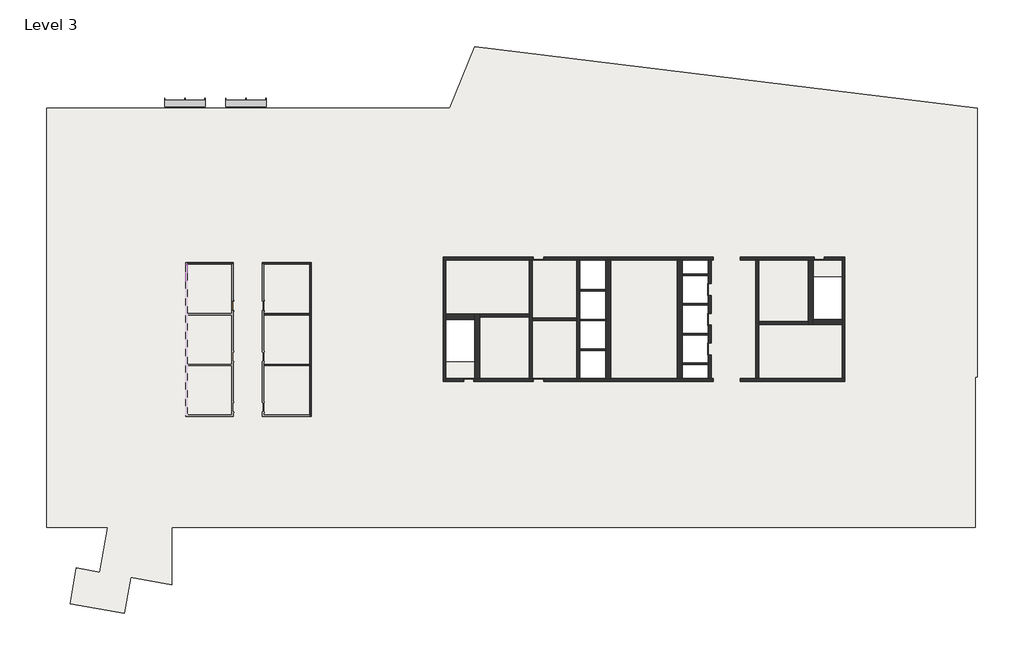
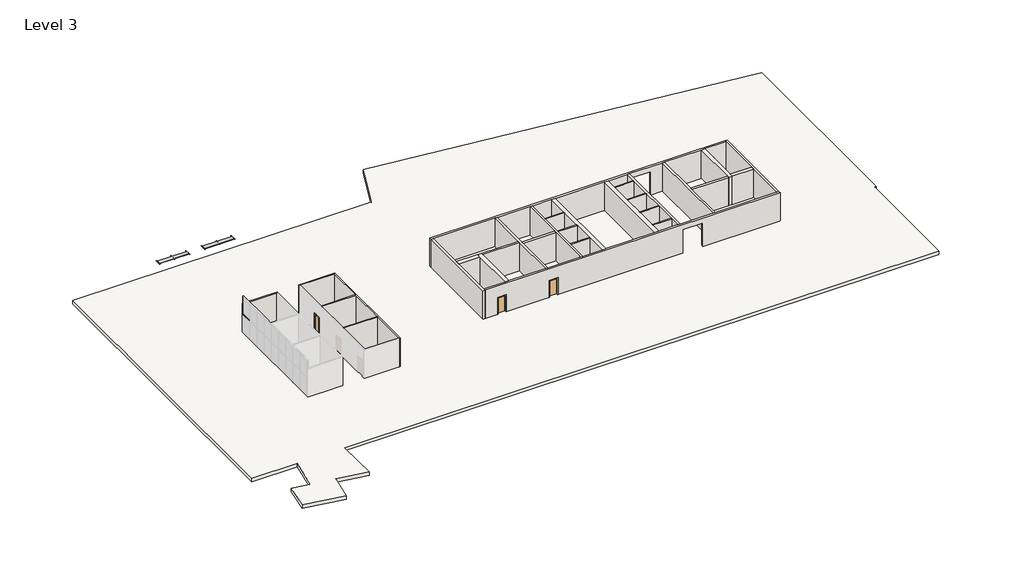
# One storey, part 2 of 2: 29 walls, 6 beams, 6 doors, 5 proxies, 2 members, 1 slab.
"""IFC4 building model written with IfcOpenShell, lengths in millimetres."""

from ifc_helpers import new_model, si_unit, frame, origin, place, context, project, spatial, polyline, outline, extrude, faceted_brep, transform, mapped, element, save
from components import support_member_fadda9f7, support_member_90e03ff0, proxy_7fed659c, shading_device_shading_device_a76b5041, door_82111de5, door_92889684, door_ec010f1f, door_9d8f1ff2, member_8e4b14e5, member_73a57e35

model = new_model("IFC4")

# Units and contexts
model_context = context("Model", 3, world=origin())
ifc_project = project(units=[si_unit("LENGTHUNIT", "METRE", prefix="MILLI")], contexts=[model_context])

# Site, building, storey
site = spatial("IfcSite", under=ifc_project)
building = spatial("IfcBuilding", under=site)
storey = spatial("IfcBuildingStorey", under=building, Name="Level 3", Elevation=7315.2)

# Beams
placement = place(None, origin())
support_member_shape = support_member_fadda9f7(model_context)
element("IfcBeam", 1, ObjectType="Support Memeber : Support Member", at=placement, inside=storey, context=model_context, shape_type="MappedRepresentation", body=[
    mapped(support_member_shape, transform((-54417.1873649, 10081.2896508, 8229.6), x_axis=(1.0, 0.0, 0.0), y_axis=(0.0, 1.0, 0.0), z_axis=(0.0, 0.0, 1.0))),
])
element("IfcBeam", 2, ObjectType="Support Memeber : Support Member", at=placement, inside=storey, context=model_context, shape_type="MappedRepresentation", body=[
    mapped(support_member_shape, transform((-48930.7873649, 10081.2896508, 8229.6), x_axis=(1.0, 0.0, 0.0), y_axis=(0.0, 1.0, 0.0), z_axis=(0.0, 0.0, 1.0))),
])
element("IfcBeam", 3, ObjectType="Support Memeber : Support Member", at=placement, inside=storey, context=model_context, shape_type="MappedRepresentation", body=[
    mapped(support_member_shape, transform((-56226.451546, 10081.2896508, 8229.6), x_axis=(1.0, 0.0, 0.0), y_axis=(0.0, 1.0, 0.0), z_axis=(0.0, 0.0, 1.0))),
])
element("IfcBeam", 4, ObjectType="Support Memeber : Support Member", at=placement, inside=storey, context=model_context, shape_type="MappedRepresentation", body=[
    mapped(support_member_shape, transform((-50740.051546, 10081.2896508, 8229.6), x_axis=(1.0, 0.0, 0.0), y_axis=(0.0, 1.0, 0.0), z_axis=(0.0, 0.0, 1.0))),
])
support_member_2_shape = support_member_90e03ff0(model_context)
element("IfcBeam", 5, ObjectType="Support Memeber : Support Member", at=placement, inside=storey, context=model_context, shape_type="MappedRepresentation", body=[
    mapped(support_member_2_shape, transform((-58011.2873649, 10081.2896508, 8229.6), x_axis=(-1.0, 0.0, 0.0), y_axis=(0.0, -1.0, 0.0), z_axis=(0.0, 0.0, 1.0))),
])
element("IfcBeam", 6, ObjectType="Support Memeber : Support Member", at=placement, inside=storey, context=model_context, shape_type="MappedRepresentation", body=[
    mapped(support_member_2_shape, transform((-52524.8873649, 10081.2896508, 8229.6), x_axis=(-1.0, 0.0, 0.0), y_axis=(0.0, -1.0, 0.0), z_axis=(0.0, 0.0, 1.0))),
])

# Proxies
proxy_shape = proxy_7fed659c(model_context)
element("IfcBuildingElementProxy", 7, Name="Elevator%20Door-Center[1] : 42\" x 84\"", ObjectType="Elevator%20Door-Center[1] : 42\" x 84\"", at=placement, inside=storey, context=model_context, shape_type="MappedRepresentation", body=[
    mapped(proxy_shape, transform((-9030.2427926, -6266.0747049, 7315.2), x_axis=(0.0, 1.0, 0.0), y_axis=(-1.0, 0.0, 0.0), z_axis=(0.0, 0.0, 1.0))),
])
element("IfcBuildingElementProxy", 8, Name="Elevator%20Door-Center[1] : 42\" x 84\"", ObjectType="Elevator%20Door-Center[1] : 42\" x 84\"", at=placement, inside=storey, context=model_context, shape_type="MappedRepresentation", body=[
    mapped(proxy_shape, transform((-9030.2427926, -8933.0747049, 7315.2), x_axis=(0.0, 1.0, 0.0), y_axis=(-1.0, 0.0, 0.0), z_axis=(0.0, 0.0, 1.0))),
])
element("IfcBuildingElementProxy", 9, Name="Elevator%20Door-Center[1] : 42\" x 84\"", ObjectType="Elevator%20Door-Center[1] : 42\" x 84\"", at=placement, inside=storey, context=model_context, shape_type="MappedRepresentation", body=[
    mapped(proxy_shape, transform((-9030.2427926, -11600.0747049, 7315.2), x_axis=(0.0, 1.0, 0.0), y_axis=(-1.0, 0.0, 0.0), z_axis=(0.0, 0.0, 1.0))),
])
shading_device_shading_device_shape = shading_device_shading_device_a76b5041(model_context)
element("IfcBuildingElementProxy", 10, Name="Shading Device : Shading Device", ObjectType="Shading Device : Shading Device", at=placement, inside=storey, context=model_context, shape_type="MappedRepresentation", body=[
    mapped(shading_device_shading_device_shape, transform((-54406.4191819, 10081.2896508, 8229.6), x_axis=(-1.0, 0.0, 0.0), y_axis=(0.0, -1.0, 0.0), z_axis=(0.0, 0.0, 1.0))),
])
element("IfcBuildingElementProxy", 11, Name="Shading Device : Shading Device", ObjectType="Shading Device : Shading Device", at=placement, inside=storey, context=model_context, shape_type="MappedRepresentation", body=[
    mapped(shading_device_shading_device_shape, transform((-48920.0191819, 10081.2896508, 8229.6), x_axis=(-1.0, 0.0, 0.0), y_axis=(0.0, -1.0, 0.0), z_axis=(0.0, 0.0, 1.0))),
])

# Doors
door_shape = door_82111de5(model_context)
element("IfcDoor", 12, ObjectType="Single-Flush : 34\" x 80\"", at=placement, inside=storey, context=model_context, shape_type="MappedRepresentation", body=[
    mapped(door_shape, transform((-51923.5856498, -7813.0103492, 7315.2), x_axis=(0.0, -1.0, 0.0), y_axis=(1.0, 0.0, 0.0), z_axis=(0.0, 0.0, 1.0))),
])
door_2_shape = door_92889684(model_context)
element("IfcDoor", 13, ObjectType="Single-Flush : 34\" x 80\"", at=placement, inside=storey, context=model_context, shape_type="MappedRepresentation", body=[
    mapped(door_2_shape, transform((-49194.8999355, -7813.0103492, 7315.2), x_axis=(0.0, -1.0, 0.0), y_axis=(1.0, 0.0, 0.0), z_axis=(0.0, 0.0, 1.0))),
])
door_3_shape = door_ec010f1f(model_context)
element("IfcDoor", 14, ObjectType="Single-Flush : 36\" x 84\"", at=placement, inside=storey, context=model_context, shape_type="MappedRepresentation", body=[
    mapped(door_3_shape, transform((-30700.0713641, -14493.2103492, 7315.2), x_axis=(1.0, 0.0, 0.0), y_axis=(0.0, 1.0, 0.0), z_axis=(0.0, 0.0, 1.0))),
])
element("IfcDoor", 15, ObjectType="Single-Flush : 36\" x 84\"", at=placement, inside=storey, context=model_context, shape_type="MappedRepresentation", body=[
    mapped(door_3_shape, transform((817.7000645, -3571.2103492, 7315.2), x_axis=(-1.0, 0.0, 0.0), y_axis=(0.0, -1.0, 0.0), z_axis=(0.0, 0.0, 1.0))),
])
element("IfcDoor", 16, ObjectType="Single-Flush : 36\" x 84\"", at=placement, inside=storey, context=model_context, shape_type="MappedRepresentation", body=[
    mapped(door_3_shape, transform((-24433.5285069, -3571.2103492, 7315.2), x_axis=(-1.0, 0.0, 0.0), y_axis=(0.0, -1.0, 0.0), z_axis=(0.0, 0.0, 1.0))),
])
door_4_shape = door_9d8f1ff2(model_context)
element("IfcDoor", 17, ObjectType="Single-Flush : 36\" x 84\"", at=placement, inside=storey, context=model_context, shape_type="MappedRepresentation", body=[
    mapped(door_4_shape, transform((-24433.5285069, -14493.2103492, 7315.2), x_axis=(-1.0, 0.0, 0.0), y_axis=(0.0, -1.0, 0.0), z_axis=(0.0, 0.0, 1.0))),
])

# Members
member_shape = member_8e4b14e5(model_context)
element("IfcMember", 18, ObjectType="Rectangular Mullion : 2.5\" x 5\" rectangular", at=placement, inside=storey, context=model_context, shape_type="MappedRepresentation", body=[
    mapped(member_shape, transform((-56063.7856498, -4130.0103492, 9728.2), x_axis=(0.0, 0.0, 1.0), y_axis=(1.0, 0.0, 0.0), z_axis=(0.0, 1.0, 0.0))),
])
member_2_shape = member_73a57e35(model_context)
element("IfcMember", 19, ObjectType="Rectangular Mullion : 2.5\" x 5\" rectangular", at=placement, inside=storey, context=model_context, shape_type="MappedRepresentation", body=[
    mapped(member_2_shape, transform((-56063.7856498, -4066.5103492, 9728.2), x_axis=(0.0, 1.0, 0.0), y_axis=(1.0, 0.0, 0.0), z_axis=(0.0, 0.0, -1.0))),
])

# Slab
element("IfcSlab", 20, ObjectType="Steel Bar Joist 14\" - Concrete", at=placement, inside=storey, context=model_context, shape_type="SweptSolid", body=[
    extrude(outline(polyline([(-68660.7599961, -27742.4853492), (-68660.7599961, 9954.2896508), (-32421.4843139, 9954.2896508), (-30175.817983, 15512.5088637), (15043.3054088, 9960.2986536), (15043.3054088, -14218.4266737), (14830.5804088, -14218.4266737), (14830.5804088, -27735.220667), (-57415.8125003, -27735.220667), (-57415.8125003, -32919.911766), (-61087.9334678, -32272.417763), (-61658.0117526, -35505.4923758), (-66551.3983764, -34642.656287), (-65981.3200915, -31409.5816742), (-63880.1342697, -31780.0774261), (-63168.1978494, -27742.4853492), (-68660.7599961, -27742.4853492)]), holes=[polyline([(-32750.2142212, -9032.2103492), (-32750.2142212, -12842.2103492), (-30166.6713641, -12842.2103492), (-30166.6713641, -9032.2103492), (-32750.2142212, -9032.2103492)]), polyline([(-20725.1285069, -3698.2103492), (-20725.1285069, -14366.2103492), (-18385.1284437, -14366.2103492), (-18385.1284437, -3698.2103492), (-20725.1285069, -3698.2103492)]), polyline([(-9157.2427926, -3698.2103492), (-11497.2428559, -3698.2103492), (-11497.2428559, -14366.2103492), (-9157.2427926, -14366.2103492), (-9157.2427926, -3698.2103492)]), polyline([(2867.8429217, -9032.2103492), (2867.8429217, -5222.2103492), (284.3000645, -5222.2103492), (284.3000645, -9032.2103492), (2867.8429217, -9032.2103492)])]), frame((0.0, 0.0, 6880.225), z_axis=(0.0, 0.0, 1.0), x_axis=(1.0, 0.0, 0.0)), (0.0, 0.0, 1.0), 434.975),
])

# Walls
element("IfcWall", 21, ObjectType="Core-shaft 10\" Concrete", at=placement, inside=storey, context=model_context, shape_type="Brep", body=[
    faceted_brep([(-24890.7285069, -14366.2103492, 9448.8), (-24890.7285069, -14366.2103492, 7315.2), (-24992.3285069, -14366.2103492, 7315.2), (-25246.3285069, -14366.2103492, 7315.2), (-29709.4713641, -14366.2103492, 7315.2), (-30166.6713641, -14366.2103492, 7315.2), (-30242.8713641, -14366.2103492, 7315.2), (-30242.8713641, -14366.2103492, 9448.8), (-31157.2713641, -14366.2103492, 9448.8), (-31157.2713641, -14366.2103492, 7315.2), (-32750.2142212, -14366.2103492, 7315.2), (-32750.2142212, -14366.2103492, 10972.8), (-30166.6713641, -14366.2103492, 10972.8), (-29709.4713641, -14366.2103492, 10972.8), (-25246.3285069, -14366.2103492, 10972.8), (-24992.3285069, -14366.2103492, 10972.8), (-20979.1285069, -14366.2103492, 10972.8), (-20725.1285069, -14366.2103492, 10972.8), (-18385.1284437, -14366.2103492, 10972.8), (-17927.9284437, -14366.2103492, 10972.8), (-11954.4428559, -14366.2103492, 10972.8), (-11497.2428559, -14366.2103492, 10972.8), (-9157.2427926, -14366.2103492, 10972.8), (-8903.2427926, -14366.2103492, 10972.8), (-4890.0427926, -14366.2103492, 10972.8), (-4636.0427926, -14366.2103492, 10972.8), (2867.8429217, -14366.2103492, 10972.8), (3121.8429217, -14366.2103492, 10972.8), (3121.8429217, -14366.2103492, 7315.2), (2867.8429217, -14366.2103492, 7315.2), (-4636.0427926, -14366.2103492, 7315.2), (-4890.0427926, -14366.2103492, 7315.2), (-6276.1570783, -14366.2103492, 7315.2), (-6276.1570783, -14366.2103492, 10363.2), (-8714.5570783, -14366.2103492, 10363.2), (-8714.5570783, -14366.2103492, 7315.2), (-8903.2427926, -14366.2103492, 7315.2), (-9157.2427926, -14366.2103492, 7315.2), (-11497.2428559, -14366.2103492, 7315.2), (-11954.4428559, -14366.2103492, 7315.2), (-17927.9284437, -14366.2103492, 7315.2), (-18385.1284437, -14366.2103492, 7315.2), (-20725.1285069, -14366.2103492, 7315.2), (-20979.1285069, -14366.2103492, 7315.2), (-23976.3285069, -14366.2103492, 7315.2), (-23976.3285069, -14366.2103492, 9448.8), (-30242.8713641, -14620.2103492, 7315.2), (-24890.7285069, -14620.2103492, 7315.2), (-24890.7285069, -14620.2103492, 9448.8), (-23976.3285069, -14620.2103492, 9448.8), (-23976.3285069, -14620.2103492, 7315.2), (-8714.5570783, -14620.2103492, 7315.2), (-8714.5570783, -14620.2103492, 10363.2), (-6276.1570783, -14620.2103492, 10363.2), (-6276.1570783, -14620.2103492, 7315.2), (3121.8429217, -14620.2103492, 7315.2), (3121.8429217, -14620.2103492, 10972.8), (-32750.2142212, -14620.2103492, 10972.8), (-32750.2142212, -14620.2103492, 7315.2), (-31157.2713641, -14620.2103492, 7315.2), (-31157.2713641, -14620.2103492, 9448.8), (-30242.8713641, -14620.2103492, 9448.8)], [[[0, 1, 2, 3, 4, 5, 6, 7, 8, 9, 10, 11, 12, 13, 14, 15, 16, 17, 18, 19, 20, 21, 22, 23, 24, 25, 26, 27, 28, 29, 30, 31, 32, 33, 34, 35, 36, 37, 38, 39, 40, 41, 42, 43, 44, 45]], [[46, 47, 48, 49, 50, 51, 52, 53, 54, 55, 56, 57, 58, 59, 60, 61]], [[59, 58, 10, 9]], [[44, 43, 42, 41, 40, 39, 38, 37, 36, 35, 51, 50]], [[6, 5, 4, 3, 2, 1, 47, 46]], [[28, 55, 54, 32, 31, 30, 29]], [[27, 26, 25, 24, 23, 22, 21, 20, 19, 18, 17, 16, 15, 14, 13, 12, 11, 57, 56]], [[7, 6, 46, 61]], [[8, 7, 61, 60]], [[9, 8, 60, 59]], [[33, 53, 52, 34]], [[53, 33, 32, 54]], [[34, 52, 51, 35]], [[48, 47, 1, 0]], [[49, 48, 0, 45]], [[50, 49, 45, 44]], [[28, 27, 56, 55]], [[11, 10, 58, 57]]]),
])
element("IfcWall", 22, ObjectType="Core-shaft 10\" Concrete", at=placement, inside=storey, context=model_context, shape_type="Brep", body=[
    faceted_brep([(2867.8429217, -3444.2103492, 7315.2), (2867.8429217, -3698.2103492, 7315.2), (2867.8429217, -9032.2103492, 7315.2), (2867.8429217, -9489.4103492, 7315.2), (2867.8429217, -14366.2103492, 7315.2), (2867.8429217, -14366.2103492, 10972.8), (2867.8429217, -9489.4103492, 10972.8), (2867.8429217, -9032.2103492, 10972.8), (2867.8429217, -3698.2103492, 10972.8), (2867.8429217, -3444.2103492, 10972.8), (3121.8429217, -3444.2103492, 7315.2), (3121.8429217, -3444.2103492, 10972.8), (3121.8429217, -14366.2103492, 10972.8), (3121.8429217, -14366.2103492, 7315.2)], [[[0, 1, 2, 3, 4, 5, 6, 7, 8, 9]], [[10, 11, 12, 13]], [[4, 3, 2, 1, 0, 10, 13]], [[9, 8, 7, 6, 5, 12, 11]], [[0, 9, 11, 10]], [[5, 4, 13, 12]]]),
])
element("IfcWall", 23, ObjectType="Core-shaft 10\" Concrete", at=placement, inside=storey, context=model_context, shape_type="Brep", body=[
    faceted_brep([(-33004.2142212, -3698.2103492, 7315.2), (-32750.2142212, -3698.2103492, 7315.2), (-25246.3285069, -3698.2103492, 7315.2), (-24992.3285069, -3698.2103492, 7315.2), (-24890.7285069, -3698.2103492, 7315.2), (-24890.7285069, -3698.2103492, 9448.8), (-23976.3285069, -3698.2103492, 9448.8), (-23976.3285069, -3698.2103492, 7315.2), (-20979.1285069, -3698.2103492, 7315.2), (-20725.1285069, -3698.2103492, 7315.2), (-18385.1284437, -3698.2103492, 7315.2), (-17927.9284437, -3698.2103492, 7315.2), (-11954.4428559, -3698.2103492, 7315.2), (-11497.2428559, -3698.2103492, 7315.2), (-9157.2427926, -3698.2103492, 7315.2), (-8903.2427926, -3698.2103492, 7315.2), (-8714.5570783, -3698.2103492, 7315.2), (-8714.5570783, -3698.2103492, 10363.2), (-6276.1570783, -3698.2103492, 10363.2), (-6276.1570783, -3698.2103492, 7315.2), (-4890.0427926, -3698.2103492, 7315.2), (-4636.0427926, -3698.2103492, 7315.2), (-172.8999355, -3698.2103492, 7315.2), (284.3000645, -3698.2103492, 7315.2), (360.5000645, -3698.2103492, 7315.2), (360.5000645, -3698.2103492, 9448.8), (1274.9000645, -3698.2103492, 9448.8), (1274.9000645, -3698.2103492, 7315.2), (2867.8429217, -3698.2103492, 7315.2), (2867.8429217, -3698.2103492, 10972.8), (284.3000645, -3698.2103492, 10972.8), (-172.8999355, -3698.2103492, 10972.8), (-4636.0427926, -3698.2103492, 10972.8), (-4890.0427926, -3698.2103492, 10972.8), (-8903.2427926, -3698.2103492, 10972.8), (-9157.2427926, -3698.2103492, 10972.8), (-11497.2428559, -3698.2103492, 10972.8), (-11954.4428559, -3698.2103492, 10972.8), (-17927.9284437, -3698.2103492, 10972.8), (-18385.1284437, -3698.2103492, 10972.8), (-20725.1285069, -3698.2103492, 10972.8), (-20979.1285069, -3698.2103492, 10972.8), (-24992.3285069, -3698.2103492, 10972.8), (-25246.3285069, -3698.2103492, 10972.8), (-32750.2142212, -3698.2103492, 10972.8), (-33004.2142212, -3698.2103492, 10972.8), (-24890.7285069, -3444.2103492, 9448.8), (-24890.7285069, -3444.2103492, 7315.2), (-33004.2142212, -3444.2103492, 7315.2), (-33004.2142212, -3444.2103492, 10972.8), (2867.8429217, -3444.2103492, 10972.8), (2867.8429217, -3444.2103492, 7315.2), (1274.9000645, -3444.2103492, 7315.2), (1274.9000645, -3444.2103492, 9448.8), (360.5000645, -3444.2103492, 9448.8), (360.5000645, -3444.2103492, 7315.2), (-6276.1570783, -3444.2103492, 7315.2), (-6276.1570783, -3444.2103492, 10363.2), (-8714.5570783, -3444.2103492, 10363.2), (-8714.5570783, -3444.2103492, 7315.2), (-23976.3285069, -3444.2103492, 7315.2), (-23976.3285069, -3444.2103492, 9448.8)], [[[0, 1, 2, 3, 4, 5, 6, 7, 8, 9, 10, 11, 12, 13, 14, 15, 16, 17, 18, 19, 20, 21, 22, 23, 24, 25, 26, 27, 28, 29, 30, 31, 32, 33, 34, 35, 36, 37, 38, 39, 40, 41, 42, 43, 44, 45]], [[46, 47, 48, 49, 50, 51, 52, 53, 54, 55, 56, 57, 58, 59, 60, 61]], [[52, 51, 28, 27]], [[56, 55, 24, 23, 22, 21, 20, 19]], [[60, 59, 16, 15, 14, 13, 12, 11, 10, 9, 8, 7]], [[48, 47, 4, 3, 2, 1, 0]], [[45, 44, 43, 42, 41, 40, 39, 38, 37, 36, 35, 34, 33, 32, 31, 30, 29, 50, 49]], [[17, 58, 57, 18]], [[58, 17, 16, 59]], [[18, 57, 56, 19]], [[25, 24, 55, 54]], [[26, 25, 54, 53]], [[27, 26, 53, 52]], [[5, 4, 47, 46]], [[6, 5, 46, 61]], [[7, 6, 61, 60]], [[0, 45, 49, 48]], [[29, 28, 51, 50]]]),
])
element("IfcWall", 24, ObjectType="Core-shaft 10\" Concrete", at=placement, inside=storey, context=model_context, shape_type="Brep", body=[
    faceted_brep([(-32750.2142212, -14620.2103492, 7315.2), (-32750.2142212, -14366.2103492, 7315.2), (-32750.2142212, -9032.2103492, 7315.2), (-32750.2142212, -8575.0103492, 7315.2), (-32750.2142212, -3698.2103492, 7315.2), (-32750.2142212, -3698.2103492, 10972.8), (-32750.2142212, -8575.0103492, 10972.8), (-32750.2142212, -9032.2103492, 10972.8), (-32750.2142212, -14366.2103492, 10972.8), (-32750.2142212, -14620.2103492, 10972.8), (-33004.2142212, -14620.2103492, 7315.2), (-33004.2142212, -14620.2103492, 10972.8), (-33004.2142212, -3698.2103492, 10972.8), (-33004.2142212, -3698.2103492, 7315.2)], [[[0, 1, 2, 3, 4, 5, 6, 7, 8, 9]], [[10, 11, 12, 13]], [[4, 3, 2, 1, 0, 10, 13]], [[9, 8, 7, 6, 5, 12, 11]], [[0, 9, 11, 10]], [[5, 4, 13, 12]]]),
])
element("IfcWall", 25, ObjectType="Core-shaft 10\" Concrete", at=placement, inside=storey, context=model_context, shape_type="SweptSolid", body=[
    extrude(outline(polyline([(-20725.1285069, -3698.2103492), (-20725.1285069, -14366.2103492), (-20979.1285069, -14366.2103492), (-20979.1285069, -3698.2103492), (-20725.1285069, -3698.2103492)])), frame((0.0, 0.0, 7315.2), z_axis=(0.0, 0.0, 1.0), x_axis=(1.0, 0.0, 0.0)), (0.0, 0.0, 1.0), 3657.6),
])
element("IfcWall", 26, ObjectType="Core-shaft 10\" Concrete", at=placement, inside=storey, context=model_context, shape_type="Brep", body=[
    faceted_brep([(-24992.3285069, -14366.2103492, 7315.2), (-24992.3285069, -3698.2103492, 7315.2), (-24992.3285069, -3698.2103492, 10972.8), (-24992.3285069, -14366.2103492, 10972.8), (-25246.3285069, -14366.2103492, 7315.2), (-25246.3285069, -14366.2103492, 10972.8), (-25246.3285069, -8829.0103492, 10972.8), (-25246.3285069, -8575.0103492, 10972.8), (-25246.3285069, -3698.2103492, 10972.8), (-25246.3285069, -3698.2103492, 7315.2), (-25246.3285069, -8575.0103492, 7315.2), (-25246.3285069, -8829.0103492, 7315.2)], [[[0, 1, 2, 3]], [[4, 5, 6, 7, 8, 9, 10, 11]], [[1, 0, 4, 11, 10, 9]], [[3, 2, 8, 7, 6, 5]], [[2, 1, 9, 8]], [[0, 3, 5, 4]]]),
])
element("IfcWall", 27, ObjectType="Core-shaft 10\" Concrete", at=placement, inside=storey, context=model_context, shape_type="SweptSolid", body=[
    extrude(outline(polyline([(-25246.3285069, -8829.0103492), (-29709.4713641, -8829.0103492), (-29709.4713641, -8575.0103492), (-25246.3285069, -8575.0103492), (-25246.3285069, -8829.0103492)])), frame((0.0, 0.0, 7315.2), z_axis=(0.0, 0.0, 1.0), x_axis=(1.0, 0.0, 0.0)), (0.0, 0.0, 1.0), 3657.6),
])
element("IfcWall", 28, ObjectType="Core-shaft 10\" Concrete", at=placement, inside=storey, context=model_context, shape_type="SweptSolid", body=[
    extrude(outline(polyline([(-14366.2103492, 10972.8), (-3698.2103492, 10972.8), (-3698.2103492, 7315.2), (-5825.4603492, 7315.2), (-5825.4603492, 9474.2), (-6904.9603492, 9474.2), (-6904.9603492, 7315.2), (-8492.4603492, 7315.2), (-8492.4603492, 9474.2), (-9571.9603492, 9474.2), (-9571.9603492, 7315.2), (-11159.4603492, 7315.2), (-11159.4603492, 9474.2), (-12238.9603492, 9474.2), (-12238.9603492, 7315.2), (-14366.2103492, 7315.2), (-14366.2103492, 10972.8)])), frame((-9157.2427926, 0.0, 0.0), z_axis=(1.0, 0.0, 0.0), x_axis=(0.0, 1.0, 0.0)), (0.0, 0.0, 1.0), 254.0),
])
element("IfcWall", 29, ObjectType="Core-shaft 10\" Concrete", at=placement, inside=storey, context=model_context, shape_type="Brep", body=[
    faceted_brep([(-4636.0427926, -14366.2103492, 7315.2), (-4636.0427926, -9489.4103492, 7315.2), (-4636.0427926, -9235.4103492, 7315.2), (-4636.0427926, -3698.2103492, 7315.2), (-4636.0427926, -3698.2103492, 10972.8), (-4636.0427926, -9235.4103492, 10972.8), (-4636.0427926, -9489.4103492, 10972.8), (-4636.0427926, -14366.2103492, 10972.8), (-4890.0427926, -14366.2103492, 7315.2), (-4890.0427926, -14366.2103492, 10972.8), (-4890.0427926, -3698.2103492, 10972.8), (-4890.0427926, -3698.2103492, 7315.2)], [[[0, 1, 2, 3, 4, 5, 6, 7]], [[8, 9, 10, 11]], [[3, 2, 1, 0, 8, 11]], [[7, 6, 5, 4, 10, 9]], [[4, 3, 11, 10]], [[0, 7, 9, 8]]]),
])
element("IfcWall", 30, ObjectType="Core-shaft 10\" Concrete", at=placement, inside=storey, context=model_context, shape_type="SweptSolid", body=[
    extrude(outline(polyline([(-4636.0427926, -9235.4103492), (-172.8999355, -9235.4103492), (-172.8999355, -9489.4103492), (-4636.0427926, -9489.4103492), (-4636.0427926, -9235.4103492)])), frame((0.0, 0.0, 7315.2), z_axis=(0.0, 0.0, 1.0), x_axis=(1.0, 0.0, 0.0)), (0.0, 0.0, 1.0), 3657.6),
])
element("IfcWall", 31, ObjectType="Core-shaft 10\" Concrete", at=placement, inside=storey, context=model_context, shape_type="SweptSolid", body=[
    extrude(outline(polyline([(-20979.1285069, -9159.2103492), (-24992.3285069, -9159.2103492), (-24992.3285069, -8905.2103492), (-20979.1285069, -8905.2103492), (-20979.1285069, -9159.2103492)])), frame((0.0, 0.0, 7315.2), z_axis=(0.0, 0.0, 1.0), x_axis=(1.0, 0.0, 0.0)), (0.0, 0.0, 1.0), 3657.6),
])
element("IfcWall", 32, ObjectType="Core-shaft 18\" Concrete", at=placement, inside=storey, context=model_context, shape_type="SweptSolid", body=[
    extrude(outline(polyline([(-18385.1284437, -14366.2103492), (-18385.1284437, -3698.2103492), (-17927.9284437, -3698.2103492), (-17927.9284437, -14366.2103492), (-18385.1284437, -14366.2103492)])), frame((0.0, 0.0, 7315.2), z_axis=(0.0, 0.0, 1.0), x_axis=(1.0, 0.0, 0.0)), (0.0, 0.0, 1.0), 3657.6),
])
element("IfcWall", 33, ObjectType="Core-shaft 18\" Concrete", at=placement, inside=storey, context=model_context, shape_type="Brep", body=[
    faceted_brep([(-29709.4713641, -14366.2103492, 7315.2), (-29709.4713641, -8829.0103492, 7315.2), (-29709.4713641, -8575.0103492, 7315.2), (-29709.4713641, -8575.0103492, 10972.8), (-29709.4713641, -8829.0103492, 10972.8), (-29709.4713641, -14366.2103492, 10972.8), (-30166.6713641, -14366.2103492, 7315.2), (-30166.6713641, -14366.2103492, 10972.8), (-30166.6713641, -9032.2103492, 10972.8), (-30166.6713641, -8575.0103492, 10972.8), (-30166.6713641, -8575.0103492, 7315.2), (-30166.6713641, -9032.2103492, 7315.2)], [[[0, 1, 2, 3, 4, 5]], [[6, 7, 8, 9, 10, 11]], [[2, 1, 0, 6, 11, 10]], [[5, 4, 3, 9, 8, 7]], [[3, 2, 10, 9]], [[0, 5, 7, 6]]]),
])
element("IfcWall", 34, ObjectType="Core-shaft 18\" Concrete", at=placement, inside=storey, context=model_context, shape_type="SweptSolid", body=[
    extrude(outline(polyline([(-32750.2142212, -8575.0103492), (-30166.6713641, -8575.0103492), (-30166.6713641, -9032.2103492), (-32750.2142212, -9032.2103492), (-32750.2142212, -8575.0103492)])), frame((0.0, 0.0, 7315.2), z_axis=(0.0, 0.0, 1.0), x_axis=(1.0, 0.0, 0.0)), (0.0, 0.0, 1.0), 3657.6),
])
element("IfcWall", 35, ObjectType="Core-shaft 18\" Concrete", at=placement, inside=storey, context=model_context, shape_type="SweptSolid", body=[
    extrude(outline(polyline([(-11954.4428559, -14366.2103492), (-11954.4428559, -3698.2103492), (-11497.2428559, -3698.2103492), (-11497.2428559, -14366.2103492), (-11954.4428559, -14366.2103492)])), frame((0.0, 0.0, 7315.2), z_axis=(0.0, 0.0, 1.0), x_axis=(1.0, 0.0, 0.0)), (0.0, 0.0, 1.0), 3657.6),
])
element("IfcWall", 36, ObjectType="Core-shaft 18\" Concrete", at=placement, inside=storey, context=model_context, shape_type="Brep", body=[
    faceted_brep([(-172.8999355, -3698.2103492, 7315.2), (-172.8999355, -9235.4103492, 7315.2), (-172.8999355, -9489.4103492, 7315.2), (-172.8999355, -9489.4103492, 10972.8), (-172.8999355, -9235.4103492, 10972.8), (-172.8999355, -3698.2103492, 10972.8), (284.3000645, -3698.2103492, 7315.2), (284.3000645, -3698.2103492, 10972.8), (284.3000645, -9032.2103492, 10972.8), (284.3000645, -9489.4103492, 10972.8), (284.3000645, -9489.4103492, 7315.2), (284.3000645, -9032.2103492, 7315.2)], [[[0, 1, 2, 3, 4, 5]], [[6, 7, 8, 9, 10, 11]], [[2, 1, 0, 6, 11, 10]], [[5, 4, 3, 9, 8, 7]], [[3, 2, 10, 9]], [[0, 5, 7, 6]]]),
])
element("IfcWall", 37, ObjectType="Core-shaft 18\" Concrete", at=placement, inside=storey, context=model_context, shape_type="SweptSolid", body=[
    extrude(outline(polyline([(2867.8429217, -9489.4103492), (284.3000645, -9489.4103492), (284.3000645, -9032.2103492), (2867.8429217, -9032.2103492), (2867.8429217, -9489.4103492)])), frame((0.0, 0.0, 7315.2), z_axis=(0.0, 0.0, 1.0), x_axis=(1.0, 0.0, 0.0)), (0.0, 0.0, 1.0), 3657.6),
])
element("IfcWall", 38, ObjectType="Generic - 5\"", at=placement, inside=storey, context=model_context, shape_type="SweptSolid", body=[
    extrude(outline(polyline([(-18385.1284437, -11826.2103492), (-20725.1285069, -11826.2103492), (-20725.1285069, -11699.2103492), (-18385.1284437, -11699.2103492), (-18385.1284437, -11826.2103492)])), frame((0.0, 0.0, 7315.2), z_axis=(0.0, 0.0, 1.0), x_axis=(1.0, 0.0, 0.0)), (0.0, 0.0, 1.0), 3657.6),
])
element("IfcWall", 39, ObjectType="Generic - 5\"", at=placement, inside=storey, context=model_context, shape_type="SweptSolid", body=[
    extrude(outline(polyline([(-18385.1284437, -9159.2103492), (-20725.1285069, -9159.2103492), (-20725.1285069, -9032.2103492), (-18385.1284437, -9032.2103492), (-18385.1284437, -9159.2103492)])), frame((0.0, 0.0, 7315.2), z_axis=(0.0, 0.0, 1.0), x_axis=(1.0, 0.0, 0.0)), (0.0, 0.0, 1.0), 3657.6),
])
element("IfcWall", 40, ObjectType="Generic - 5\"", at=placement, inside=storey, context=model_context, shape_type="SweptSolid", body=[
    extrude(outline(polyline([(-18385.1284437, -6492.2103492), (-20725.1285069, -6492.2103492), (-20725.1285069, -6365.2103492), (-18385.1284437, -6365.2103492), (-18385.1284437, -6492.2103492)])), frame((0.0, 0.0, 7315.2), z_axis=(0.0, 0.0, 1.0), x_axis=(1.0, 0.0, 0.0)), (0.0, 0.0, 1.0), 3657.6),
])
element("IfcWall", 41, ObjectType="Generic - 5\"", at=placement, inside=storey, context=model_context, shape_type="SweptSolid", body=[
    extrude(outline(polyline([(-11497.2428559, -10302.2103492), (-9157.2427926, -10302.2103492), (-9157.2427926, -10429.2103492), (-11497.2428559, -10429.2103492), (-11497.2428559, -10302.2103492)])), frame((0.0, 0.0, 7315.2), z_axis=(0.0, 0.0, 1.0), x_axis=(1.0, 0.0, 0.0)), (0.0, 0.0, 1.0), 3657.6),
])
element("IfcWall", 42, ObjectType="Generic - 5\"", at=placement, inside=storey, context=model_context, shape_type="SweptSolid", body=[
    extrude(outline(polyline([(-11497.2428559, -7635.2103492), (-9157.2427926, -7635.2103492), (-9157.2427926, -7762.2103492), (-11497.2428559, -7762.2103492), (-11497.2428559, -7635.2103492)])), frame((0.0, 0.0, 7315.2), z_axis=(0.0, 0.0, 1.0), x_axis=(1.0, 0.0, 0.0)), (0.0, 0.0, 1.0), 3657.6),
])
element("IfcWall", 43, ObjectType="Generic - 5\"", at=placement, inside=storey, context=model_context, shape_type="SweptSolid", body=[
    extrude(outline(polyline([(-11497.2428559, -4968.2103492), (-9157.2427926, -4968.2103492), (-9157.2427926, -5095.2103492), (-11497.2428559, -5095.2103492), (-11497.2428559, -4968.2103492)])), frame((0.0, 0.0, 7315.2), z_axis=(0.0, 0.0, 1.0), x_axis=(1.0, 0.0, 0.0)), (0.0, 0.0, 1.0), 3657.6),
])
element("IfcWall", 44, ObjectType="Generic - 5\"", at=placement, inside=storey, context=model_context, shape_type="SweptSolid", body=[
    extrude(outline(polyline([(-11497.2428559, -12969.2103492), (-9157.2427926, -12969.2103492), (-9157.2427926, -13096.2103492), (-11497.2428559, -13096.2103492), (-11497.2428559, -12969.2103492)])), frame((0.0, 0.0, 7315.2), z_axis=(0.0, 0.0, 1.0), x_axis=(1.0, 0.0, 0.0)), (0.0, 0.0, 1.0), 3657.6),
])
element("IfcWall", 45, ObjectType="Interior - Generic - 5\"", at=placement, inside=storey, context=model_context, shape_type="Brep", body=[
    faceted_brep([(-44864.1999355, -3939.5103492, 7315.2), (-49258.3999355, -3939.5103492, 7315.2), (-49258.3999355, -3939.5103492, 10972.8), (-44864.1999355, -3939.5103492, 10972.8), (-44864.1999355, -4066.5103492, 7315.2), (-44864.1999355, -4066.5103492, 10972.8), (-44991.1999355, -4066.5103492, 10972.8), (-49131.3999355, -4066.5103492, 10972.8), (-49258.3999355, -4066.5103492, 10972.8), (-49258.3999355, -4066.5103492, 7315.2), (-49131.3999355, -4066.5103492, 7315.2), (-44991.1999355, -4066.5103492, 7315.2)], [[[0, 1, 2, 3]], [[4, 5, 6, 7, 8, 9, 10, 11]], [[1, 0, 4, 11, 10, 9]], [[3, 2, 8, 7, 6, 5]], [[0, 3, 5, 4]], [[2, 1, 9, 8]]]),
])
element("IfcWall", 46, ObjectType="Interior - Generic - 5\"", at=placement, inside=storey, context=model_context, shape_type="Brep", body=[
    faceted_brep([(-44864.1999355, -17782.5103492, 7315.2), (-44864.1999355, -4066.5103492, 7315.2), (-44864.1999355, -4066.5103492, 10972.8), (-44864.1999355, -17782.5103492, 10972.8), (-44991.1999355, -17782.5103492, 7315.2), (-44991.1999355, -17782.5103492, 10972.8), (-44991.1999355, -17655.5103492, 10972.8), (-44991.1999355, -13210.5103492, 10972.8), (-44991.1999355, -13083.5103492, 10972.8), (-44991.1999355, -8638.5103492, 10972.8), (-44991.1999355, -8511.5103492, 10972.8), (-44991.1999355, -4066.5103492, 10972.8), (-44991.1999355, -4066.5103492, 7315.2), (-44991.1999355, -8511.5103492, 7315.2), (-44991.1999355, -8638.5103492, 7315.2), (-44991.1999355, -13083.5103492, 7315.2), (-44991.1999355, -13210.5103492, 7315.2), (-44991.1999355, -17655.5103492, 7315.2)], [[[0, 1, 2, 3]], [[4, 5, 6, 7, 8, 9, 10, 11, 12, 13, 14, 15, 16, 17]], [[1, 0, 4, 17, 16, 15, 14, 13, 12]], [[3, 2, 11, 10, 9, 8, 7, 6, 5]], [[0, 3, 5, 4]], [[2, 1, 12, 11]]]),
])
element("IfcWall", 47, ObjectType="Interior - Generic - 5\"", at=placement, inside=storey, context=model_context, shape_type="Brep", body=[
    faceted_brep([(-51860.0856498, -3939.5103492, 7315.2), (-56000.2856498, -3939.5103492, 7315.2), (-56000.2856498, -3939.5103492, 10972.8), (-51860.0856498, -3939.5103492, 10972.8), (-51860.0856498, -4066.5103492, 7315.2), (-51860.0856498, -4066.5103492, 10972.8), (-51987.0856498, -4066.5103492, 10972.8), (-56000.2856498, -4066.5103492, 10972.8), (-56000.2856498, -4066.5103492, 7315.2), (-51987.0856498, -4066.5103492, 7315.2)], [[[0, 1, 2, 3]], [[4, 5, 6, 7, 8, 9]], [[1, 0, 4, 9, 8]], [[3, 2, 7, 6, 5]], [[2, 1, 8, 7]], [[0, 3, 5, 4]]]),
])
element("IfcWall", 48, ObjectType="Interior - Generic - 5\"", at=placement, inside=storey, context=model_context, shape_type="SweptSolid", body=[
    extrude(outline(polyline([(-44991.1999355, -8638.5103492), (-49131.3999355, -8638.5103492), (-49131.3999355, -8511.5103492), (-44991.1999355, -8511.5103492), (-44991.1999355, -8638.5103492)])), frame((0.0, 0.0, 7315.2), z_axis=(0.0, 0.0, 1.0), x_axis=(1.0, 0.0, 0.0)), (0.0, 0.0, 1.0), 3657.6),
])
element("IfcWall", 49, ObjectType="Interior - Generic - 5\"", at=placement, inside=storey, context=model_context, shape_type="SweptSolid", body=[
    extrude(outline(polyline([(-44991.1999355, -13210.5103492), (-49131.3999355, -13210.5103492), (-49131.3999355, -13083.5103492), (-44991.1999355, -13083.5103492), (-44991.1999355, -13210.5103492)])), frame((0.0, 0.0, 7315.2), z_axis=(0.0, 0.0, 1.0), x_axis=(1.0, 0.0, 0.0)), (0.0, 0.0, 1.0), 3657.6),
])

save(model, "model.ifc")
